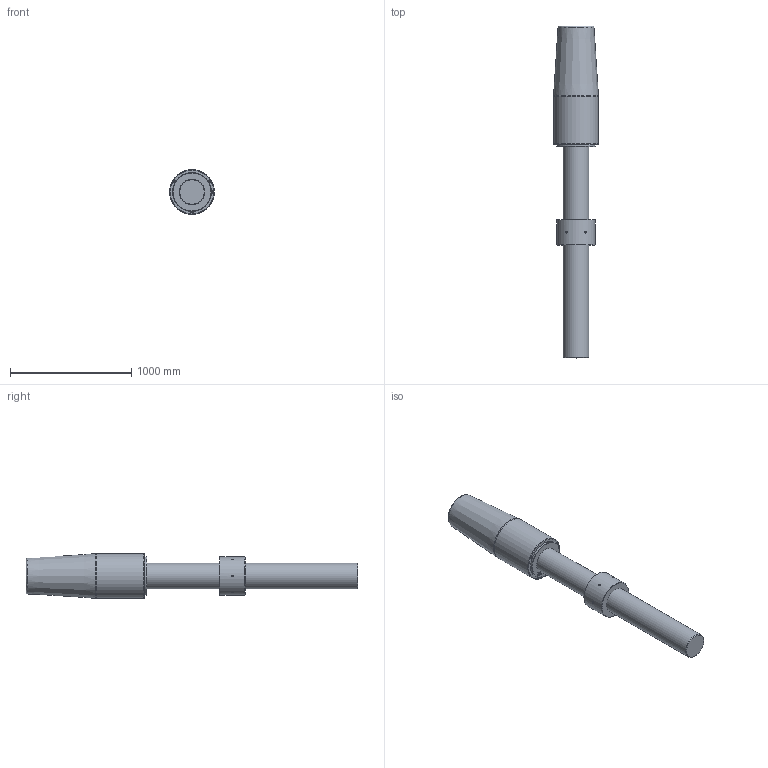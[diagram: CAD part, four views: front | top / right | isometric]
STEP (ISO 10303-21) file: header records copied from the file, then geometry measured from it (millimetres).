
FILE_DESCRIPTION(/* description */ (''),/* implementation_level */ '2;1');
FILE_NAME(/* name */ 'D:\Clienti\Redaelli (inventor)\CYB\STEP\Arrangement\CYB128 52 061 0.stp',/* time_stamp */ '2021-05-08T14:59:35+02:00',/* author */ ('fabri'),/* organization */ (''),/* preprocessor_version */ 'ST-DEVELOPER v16.13',/* originating_system */ 'Autodesk Inventor 2018',/* authorisation */ '');
FILE_SCHEMA (('AUTOMOTIVE_DESIGN { 1 0 10303 214 3 1 1 }'));
Length unit declared in the file: millimetre
Products named in the file (5): CYB128 52 061 0; RNT052 41 051 0_ROD; RNT052 41 051 0_ROD_1; CCY021-51-061-0_BUSH; CCY021-51-061-0
Assembly tree (4 placements, depth 2):
  CYB128 52 061 0
    RNT052 41 051 0_ROD
    RNT052 41 051 0_ROD_1
    CCY021-51-061-0_BUSH
    CCY021-51-061-0
Bounding box: 370 x 2736 x 370 mm (x, y, z)
Volume: 180382534.9 mm3; surface area: 3566221.7 mm2
Topology: 4 solids, 4 shells, 719 faces, 1932 edges, 1283 vertices
Faces by surface type: bspline 360, plane 321, cylinder 18, cone 16, torus 4
Full cylindrical faces by diameter (mm): 15 x6, 20.752 x3, 201.34 x2, 210 x1, 212 x1, 269 x1, 285 x1, 315 x1, 320 x1, 370 x1
Entity records: 24292 total; most frequent: CARTESIAN_POINT 8789, ORIENTED_EDGE 3766, DIRECTION 1931, EDGE_CURVE 1883, VERTEX_POINT 1273, LINE 1109, VECTOR 1109, EDGE_LOOP 824
